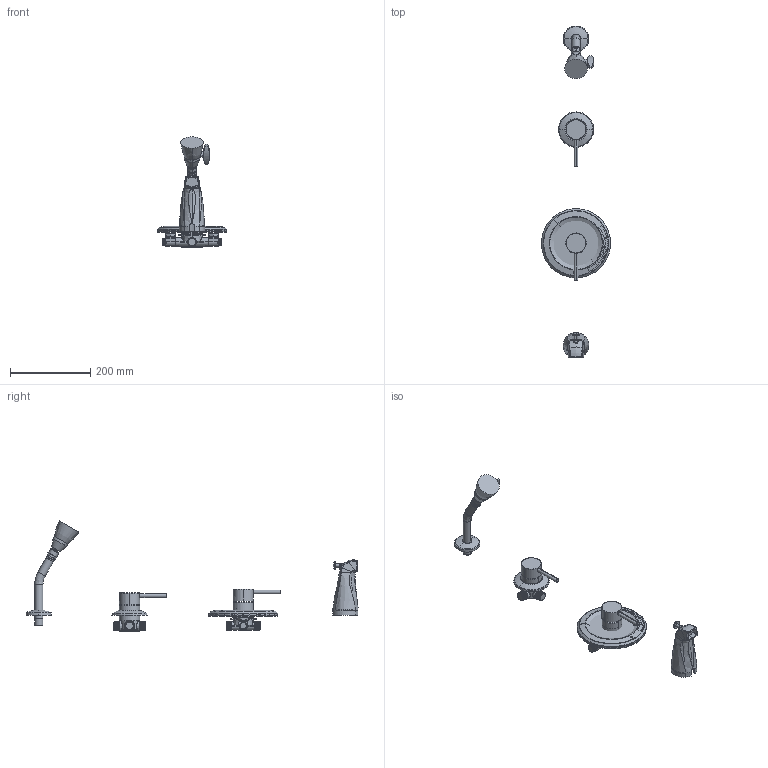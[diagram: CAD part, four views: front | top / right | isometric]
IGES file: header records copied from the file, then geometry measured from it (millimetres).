
Start section:  PTC IGES file: sh-pb1_622_schedule_REV112514.igs
Global section: file name: sh-pb1_622_schedule_REV112514.igs; native system: Creo Parametric by Parametric Technology Corporation; preprocessor: 2013050; author: dmisv; organization: Unknown; date: 20141125.145026; units: inch
Bounding box: 171.7 x 824.94 x 273.82 mm (x, y, z)
Surface area: 292098.8 mm2 (no closed solid volume)
Topology: 0 solids, 0 shells, 615 faces, 4460 edges, 5939 vertices
Faces by surface type: revolution 389, bspline 224, extrusion 2
